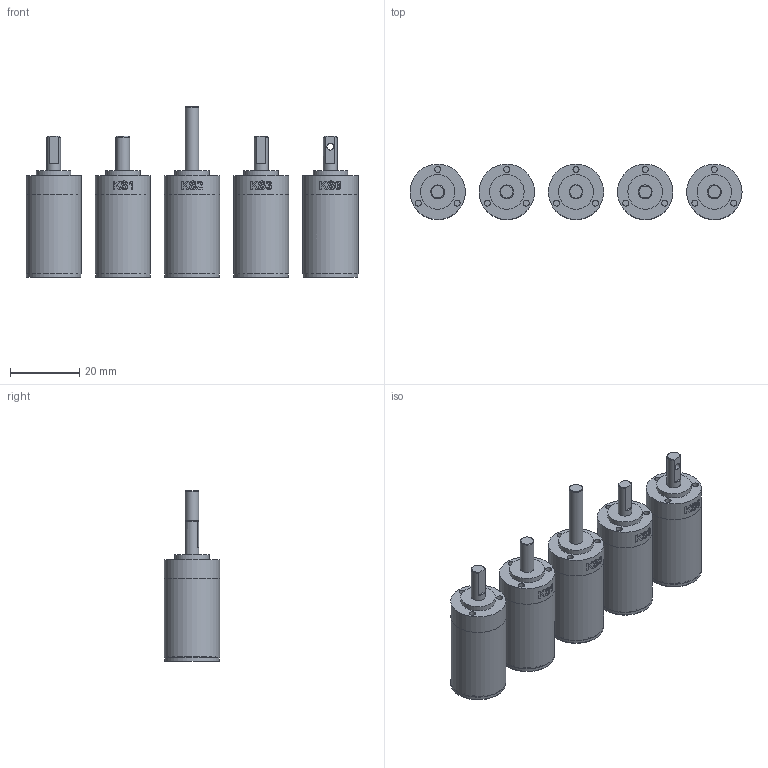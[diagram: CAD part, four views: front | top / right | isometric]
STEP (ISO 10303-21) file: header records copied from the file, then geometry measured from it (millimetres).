
FILE_DESCRIPTION(/* description */ (''),/* implementation_level */ '2;1');
FILE_NAME(/* name */ '16GPT-4stage_standard+KSx.stp',/* time_stamp */ '2024-11-12T10:21:09+01:00',/* author */ ('DR. FRITZ FAULHABER GmbH & Co. KG'),/* organization */ ('DR. FRITZ FAULHABER GmbH & Co. KG'),/* preprocessor_version */ 'ST-DEVELOPER v19.3',/* originating_system */ 'SIEMENS PLM Software NX2212.4000',/* authorisation */ '');
FILE_SCHEMA (('AUTOMOTIVE_DESIGN { 1 0 10303 214 3 1 1 1 }'));
Length unit declared in the file: millimetre
Products named in the file (1): A_objects
Bounding box: 96 x 16 x 49.4 mm (x, y, z)
Volume: 28906 mm3; surface area: 11284.7 mm2
Topology: 5 solids, 5 shells, 251 faces, 523 edges, 355 vertices
Faces by surface type: plane 114, cylinder 79, bspline 52, cone 6
Full cylindrical faces by diameter (mm): 1.75 x15, 2 x1, 2.902 x5, 4 x5, 10 x5, 10.6 x5, 14.8 x5, 15.4 x5, 15.8 x5, 15.999 x5, 16 x10
Entity records: 12027 total; most frequent: CARTESIAN_POINT 6719, ORIENTED_EDGE 860, DIRECTION 777, EDGE_CURVE 430, EDGE_LOOP 395, AXIS2_PLACEMENT_3D 362, VERTEX_POINT 331, FACE_BOUND 260
